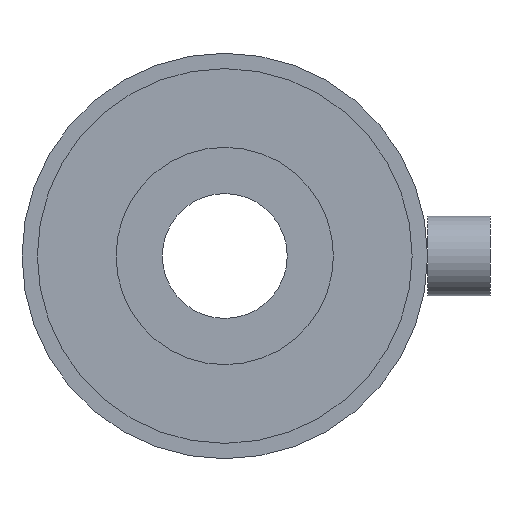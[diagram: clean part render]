
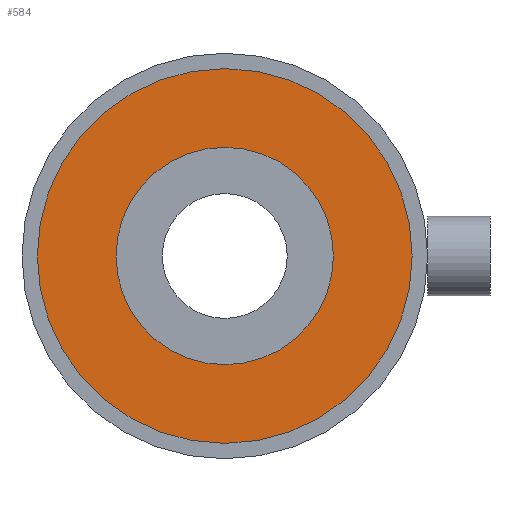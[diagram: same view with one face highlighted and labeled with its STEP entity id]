
A CAD part, front view. The second image highlights one B-rep face of the part: STEP entity #584.
In plain terms, the highlighted planar face has unit normal (0, -1, 0).
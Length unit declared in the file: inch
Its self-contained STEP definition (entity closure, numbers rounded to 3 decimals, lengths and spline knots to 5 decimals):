
#11 = DIRECTION ( 'NONE',  ( 0., -1., 0. ) ) ;
#24 = PLANE ( 'NONE',  #565 ) ;
#25 = CARTESIAN_POINT ( 'NONE',  ( 0., 0.0231, 0. ) ) ;
#27 = DIRECTION ( 'NONE',  ( 0., -1., 0. ) ) ;
#29 = CARTESIAN_POINT ( 'NONE',  ( 0., 0.0231, 0. ) ) ;
#32 = CARTESIAN_POINT ( 'NONE',  ( 0., 0.0231, 0. ) ) ;
#35 = DIRECTION ( 'NONE',  ( 0., -1., 0. ) ) ;
#36 = DIRECTION ( 'NONE',  ( 0., 0., -1. ) ) ;
#43 = DIRECTION ( 'NONE',  ( 0., 0., -1. ) ) ;
#46 = DIRECTION ( 'NONE',  ( 0., -1., 0. ) ) ;
#47 = CARTESIAN_POINT ( 'NONE',  ( 0., 0.0231, 0. ) ) ;
#48 = DIRECTION ( 'NONE',  ( 0., 0., -1. ) ) ;
#54 = DIRECTION ( 'NONE',  ( 0., 0., -1. ) ) ;
#138 = CARTESIAN_POINT ( 'NONE',  ( 0., 0.0231, 0. ) ) ;
#145 = DIRECTION ( 'NONE',  ( 0., -1., 0. ) ) ;
#146 = DIRECTION ( 'NONE',  ( 0., 0., -1. ) ) ;
#201 = VERTEX_POINT ( 'NONE', #238 ) ;
#203 = VERTEX_POINT ( 'NONE', #223 ) ;
#206 = VERTEX_POINT ( 'NONE', #243 ) ;
#219 = VERTEX_POINT ( 'NONE', #242 ) ;
#223 = CARTESIAN_POINT ( 'NONE',  ( 0., 0.0231, 0.75 ) ) ;
#238 = CARTESIAN_POINT ( 'NONE',  ( 0., 0.0231, -0.75 ) ) ;
#242 = CARTESIAN_POINT ( 'NONE',  ( 0., 0.0231, -0.435 ) ) ;
#243 = CARTESIAN_POINT ( 'NONE',  ( 0., 0.0231, 0.435 ) ) ;
#293 = EDGE_LOOP ( 'NONE', ( #342, #302 ) ) ;
#300 = EDGE_LOOP ( 'NONE', ( #360, #301 ) ) ;
#301 = ORIENTED_EDGE ( 'NONE', *, *, #532, .T. ) ;
#302 = ORIENTED_EDGE ( 'NONE', *, *, #502, .F. ) ;
#342 = ORIENTED_EDGE ( 'NONE', *, *, #534, .F. ) ;
#360 = ORIENTED_EDGE ( 'NONE', *, *, #538, .T. ) ;
#372 = CIRCLE ( 'NONE', #537, 0.435 ) ;
#415 = CIRCLE ( 'NONE', #556, 0.75 ) ;
#425 = FACE_OUTER_BOUND ( 'NONE', #300, .T. ) ;
#426 = CIRCLE ( 'NONE', #570, 0.435 ) ;
#436 = FACE_BOUND ( 'NONE', #293, .T. ) ;
#442 = CIRCLE ( 'NONE', #552, 0.75 ) ;
#502 = EDGE_CURVE ( 'NONE', #206, #219, #372, .T. ) ;
#532 = EDGE_CURVE ( 'NONE', #203, #201, #415, .T. ) ;
#534 = EDGE_CURVE ( 'NONE', #219, #206, #426, .T. ) ;
#537 = AXIS2_PLACEMENT_3D ( 'NONE', #138, #145, #146 ) ;
#538 = EDGE_CURVE ( 'NONE', #201, #203, #442, .T. ) ;
#552 = AXIS2_PLACEMENT_3D ( 'NONE', #25, #27, #48 ) ;
#556 = AXIS2_PLACEMENT_3D ( 'NONE', #32, #46, #43 ) ;
#565 = AXIS2_PLACEMENT_3D ( 'NONE', #29, #35, #36 ) ;
#570 = AXIS2_PLACEMENT_3D ( 'NONE', #47, #11, #54 ) ;
#584 = ADVANCED_FACE ( 'NONE', ( #436, #425 ), #24, .T. ) ;
